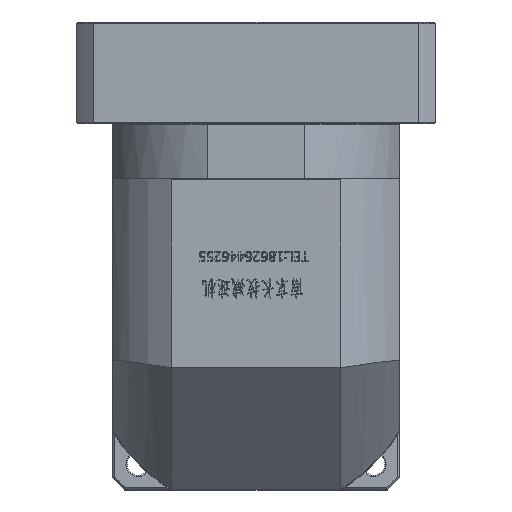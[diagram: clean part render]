
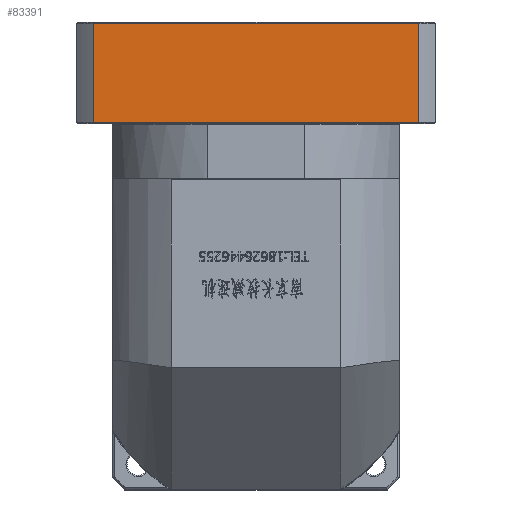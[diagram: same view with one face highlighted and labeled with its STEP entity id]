
A CAD part, top view. The second image highlights one B-rep face of the part: STEP entity #83391.
In plain terms, the highlighted planar face has unit normal (0, 0, 1).
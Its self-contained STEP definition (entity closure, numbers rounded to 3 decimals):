
#531 = CARTESIAN_POINT ( 'NONE',  ( 128.097, 131.618, 351.671 ) ) ;
#550 = CARTESIAN_POINT ( 'NONE',  ( -32.888, 82.618, 351.671 ) ) ;
#1982 = FACE_OUTER_BOUND ( 'NONE', #48316, .T. ) ;
#10109 = VERTEX_POINT ( 'NONE', #104644 ) ;
#12437 = LINE ( 'NONE', #138112, #91552 ) ;
#22304 = DIRECTION ( 'NONE',  ( 0., -1., 0. ) ) ;
#23692 = VECTOR ( 'NONE', #22304, 1000. ) ;
#24996 = CARTESIAN_POINT ( 'NONE',  ( -32.888, 131.618, 351.671 ) ) ;
#28275 = EDGE_CURVE ( 'NONE', #53206, #10109, #141475, .T. ) ;
#31379 = PLANE ( 'NONE',  #57115 ) ;
#32574 = ORIENTED_EDGE ( 'NONE', *, *, #96873, .F. ) ;
#32757 = ORIENTED_EDGE ( 'NONE', *, *, #28275, .F. ) ;
#46016 = CARTESIAN_POINT ( 'NONE',  ( -32.888, 132.118, 351.671 ) ) ;
#48316 = EDGE_LOOP ( 'NONE', ( #32574, #113479, #32757, #137395 ) ) ;
#53206 = VERTEX_POINT ( 'NONE', #531 ) ;
#55176 = DIRECTION ( 'NONE',  ( 0., 0., -1. ) ) ;
#57115 = AXIS2_PLACEMENT_3D ( 'NONE', #132937, #55176, #68187 ) ;
#60028 = VERTEX_POINT ( 'NONE', #550 ) ;
#68187 = DIRECTION ( 'NONE',  ( 0., -1., 0. ) ) ;
#72378 = VERTEX_POINT ( 'NONE', #24996 ) ;
#83391 = ADVANCED_FACE ( 'NONE', ( #1982 ), #31379, .F. ) ;
#87223 = DIRECTION ( 'NONE',  ( 1., 0., 0. ) ) ;
#90286 = VECTOR ( 'NONE', #87223, 1000. ) ;
#91552 = VECTOR ( 'NONE', #125591, 1000. ) ;
#94007 = VECTOR ( 'NONE', #97046, 1000. ) ;
#96873 = EDGE_CURVE ( 'NONE', #60028, #72378, #110362, .T. ) ;
#97046 = DIRECTION ( 'NONE',  ( 0., 1., 0. ) ) ;
#102938 = EDGE_CURVE ( 'NONE', #60028, #10109, #12437, .T. ) ;
#104644 = CARTESIAN_POINT ( 'NONE',  ( 128.097, 82.618, 351.671 ) ) ;
#110362 = LINE ( 'NONE', #46016, #94007 ) ;
#113479 = ORIENTED_EDGE ( 'NONE', *, *, #102938, .T. ) ;
#125591 = DIRECTION ( 'NONE',  ( 1., 0., 0. ) ) ;
#128893 = LINE ( 'NONE', #147938, #90286 ) ;
#129958 = EDGE_CURVE ( 'NONE', #72378, #53206, #128893, .T. ) ;
#132937 = CARTESIAN_POINT ( 'NONE',  ( 136.604, 132.118, 351.671 ) ) ;
#137395 = ORIENTED_EDGE ( 'NONE', *, *, #129958, .F. ) ;
#138112 = CARTESIAN_POINT ( 'NONE',  ( 136.604, 82.618, 351.671 ) ) ;
#141475 = LINE ( 'NONE', #165340, #23692 ) ;
#147938 = CARTESIAN_POINT ( 'NONE',  ( 136.604, 131.618, 351.671 ) ) ;
#165340 = CARTESIAN_POINT ( 'NONE',  ( 128.097, -260.688, 351.671 ) ) ;
